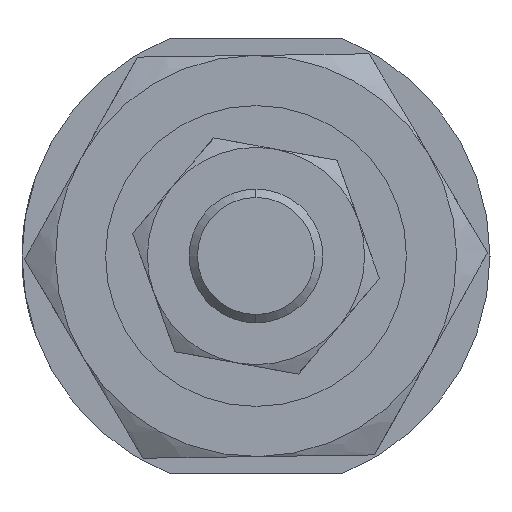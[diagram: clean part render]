
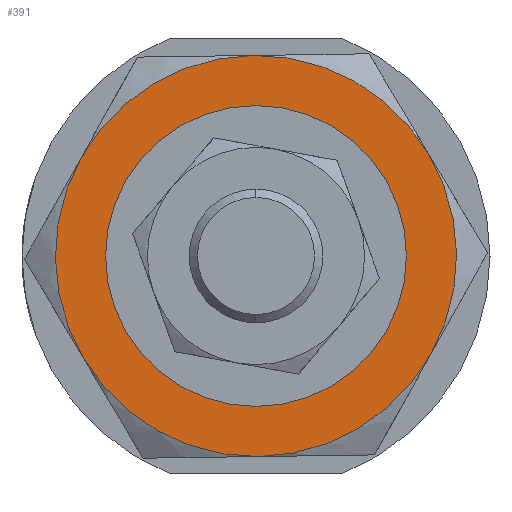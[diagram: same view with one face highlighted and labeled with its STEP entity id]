
A CAD part, left-side view. The second image highlights one B-rep face of the part: STEP entity #391.
In plain terms, the highlighted planar face has unit normal (-1, 0, 0) as drawn and (0, 0, -1) by its records, which use the part's own axes.
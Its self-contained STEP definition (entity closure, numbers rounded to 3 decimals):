
#14 = ORIENTED_EDGE ( 'NONE', *, *, #2724, .F. ) ;
#50 = DIRECTION ( 'NONE',  ( 0., 0., 1. ) ) ;
#68 = DIRECTION ( 'NONE',  ( 1., 0., 0. ) ) ;
#86 = DIRECTION ( 'NONE',  ( 0., 0., 1. ) ) ;
#93 = DIRECTION ( 'NONE',  ( 0., 0., 1. ) ) ;
#99 = CARTESIAN_POINT ( 'NONE',  ( 0., 0., -4. ) ) ;
#115 = DIRECTION ( 'NONE',  ( 1., 0., 0. ) ) ;
#125 = CIRCLE ( 'NONE', #2370, 12. ) ;
#162 = ORIENTED_EDGE ( 'NONE', *, *, #1331, .T. ) ;
#165 = VERTEX_POINT ( 'NONE', #2492 ) ;
#291 = DIRECTION ( 'NONE',  ( 0., 0., 1. ) ) ;
#332 = CARTESIAN_POINT ( 'NONE',  ( 0., 0., -4. ) ) ;
#391 = ADVANCED_FACE ( 'NONE', ( #2704, #2058 ), #2554, .F. ) ;
#395 = EDGE_CURVE ( 'NONE', #2565, #2557, #1096, .T. ) ;
#493 = DIRECTION ( 'NONE',  ( 1., 0., 0. ) ) ;
#559 = CARTESIAN_POINT ( 'NONE',  ( 0., 0., -4. ) ) ;
#590 = EDGE_LOOP ( 'NONE', ( #1412, #162 ) ) ;
#630 = AXIS2_PLACEMENT_3D ( 'NONE', #2733, #50, #2073 ) ;
#653 = ORIENTED_EDGE ( 'NONE', *, *, #1593, .F. ) ;
#672 = CARTESIAN_POINT ( 'NONE',  ( -6., -10.392, -4. ) ) ;
#675 = EDGE_CURVE ( 'NONE', #2771, #2847, #125, .T. ) ;
#714 = CIRCLE ( 'NONE', #630, 12. ) ;
#801 = CARTESIAN_POINT ( 'NONE',  ( 0., 0., -4. ) ) ;
#811 = AXIS2_PLACEMENT_3D ( 'NONE', #2542, #1430, #1783 ) ;
#838 = CIRCLE ( 'NONE', #1078, 12. ) ;
#953 = DIRECTION ( 'NONE',  ( 1., 0., 0. ) ) ;
#983 = AXIS2_PLACEMENT_3D ( 'NONE', #332, #1446, #115 ) ;
#1078 = AXIS2_PLACEMENT_3D ( 'NONE', #801, #93, #1889 ) ;
#1096 = CIRCLE ( 'NONE', #1117, 12. ) ;
#1102 = ORIENTED_EDGE ( 'NONE', *, *, #1142, .F. ) ;
#1117 = AXIS2_PLACEMENT_3D ( 'NONE', #559, #2106, #953 ) ;
#1135 = VERTEX_POINT ( 'NONE', #672 ) ;
#1142 = EDGE_CURVE ( 'NONE', #1845, #1135, #714, .T. ) ;
#1180 = DIRECTION ( 'NONE',  ( 0., 0., 1. ) ) ;
#1306 = DIRECTION ( 'NONE',  ( 1., 0., 0. ) ) ;
#1316 = EDGE_LOOP ( 'NONE', ( #2222, #2667, #653, #1102, #14, #1631 ) ) ;
#1331 = EDGE_CURVE ( 'NONE', #1551, #165, #2015, .T. ) ;
#1378 = CARTESIAN_POINT ( 'NONE',  ( -8.25, 0., -4. ) ) ;
#1412 = ORIENTED_EDGE ( 'NONE', *, *, #2744, .T. ) ;
#1416 = DIRECTION ( 'NONE',  ( 1., 0., 0. ) ) ;
#1430 = DIRECTION ( 'NONE',  ( 0., 0., 1. ) ) ;
#1446 = DIRECTION ( 'NONE',  ( 0., 0., 1. ) ) ;
#1551 = VERTEX_POINT ( 'NONE', #1378 ) ;
#1593 = EDGE_CURVE ( 'NONE', #1135, #2771, #2849, .T. ) ;
#1611 = CARTESIAN_POINT ( 'NONE',  ( 0., 0., -4. ) ) ;
#1631 = ORIENTED_EDGE ( 'NONE', *, *, #395, .F. ) ;
#1633 = CARTESIAN_POINT ( 'NONE',  ( 0., 0., -4. ) ) ;
#1765 = DIRECTION ( 'NONE',  ( 0., 0., 1. ) ) ;
#1766 = CIRCLE ( 'NONE', #811, 12. ) ;
#1783 = DIRECTION ( 'NONE',  ( 1., 0., 0. ) ) ;
#1845 = VERTEX_POINT ( 'NONE', #2151 ) ;
#1889 = DIRECTION ( 'NONE',  ( 1., 0., 0. ) ) ;
#2015 = CIRCLE ( 'NONE', #2270, 8.25 ) ;
#2054 = CARTESIAN_POINT ( 'NONE',  ( 6., 10.392, -4. ) ) ;
#2058 = FACE_OUTER_BOUND ( 'NONE', #1316, .T. ) ;
#2073 = DIRECTION ( 'NONE',  ( 1., 0., 0. ) ) ;
#2106 = DIRECTION ( 'NONE',  ( 0., 0., 1. ) ) ;
#2124 = AXIS2_PLACEMENT_3D ( 'NONE', #99, #86, #68 ) ;
#2151 = CARTESIAN_POINT ( 'NONE',  ( -12., 0., -4. ) ) ;
#2157 = EDGE_CURVE ( 'NONE', #2847, #2565, #1766, .T. ) ;
#2217 = CARTESIAN_POINT ( 'NONE',  ( 0., 0., -4. ) ) ;
#2222 = ORIENTED_EDGE ( 'NONE', *, *, #2157, .F. ) ;
#2270 = AXIS2_PLACEMENT_3D ( 'NONE', #1633, #291, #1416 ) ;
#2334 = CARTESIAN_POINT ( 'NONE',  ( 12., 0., -4. ) ) ;
#2370 = AXIS2_PLACEMENT_3D ( 'NONE', #2217, #1765, #1306 ) ;
#2492 = CARTESIAN_POINT ( 'NONE',  ( 8.25, 0., -4. ) ) ;
#2504 = CARTESIAN_POINT ( 'NONE',  ( -6., 10.392, -4. ) ) ;
#2542 = CARTESIAN_POINT ( 'NONE',  ( 0., 0., -4. ) ) ;
#2554 = PLANE ( 'NONE',  #2124 ) ;
#2557 = VERTEX_POINT ( 'NONE', #2504 ) ;
#2565 = VERTEX_POINT ( 'NONE', #2054 ) ;
#2667 = ORIENTED_EDGE ( 'NONE', *, *, #675, .F. ) ;
#2704 = FACE_BOUND ( 'NONE', #590, .T. ) ;
#2724 = EDGE_CURVE ( 'NONE', #2557, #1845, #838, .T. ) ;
#2733 = CARTESIAN_POINT ( 'NONE',  ( 0., 0., -4. ) ) ;
#2744 = EDGE_CURVE ( 'NONE', #165, #1551, #2758, .T. ) ;
#2758 = CIRCLE ( 'NONE', #983, 8.25 ) ;
#2771 = VERTEX_POINT ( 'NONE', #2772 ) ;
#2772 = CARTESIAN_POINT ( 'NONE',  ( 6., -10.392, -4. ) ) ;
#2844 = AXIS2_PLACEMENT_3D ( 'NONE', #1611, #1180, #493 ) ;
#2847 = VERTEX_POINT ( 'NONE', #2334 ) ;
#2849 = CIRCLE ( 'NONE', #2844, 12. ) ;
